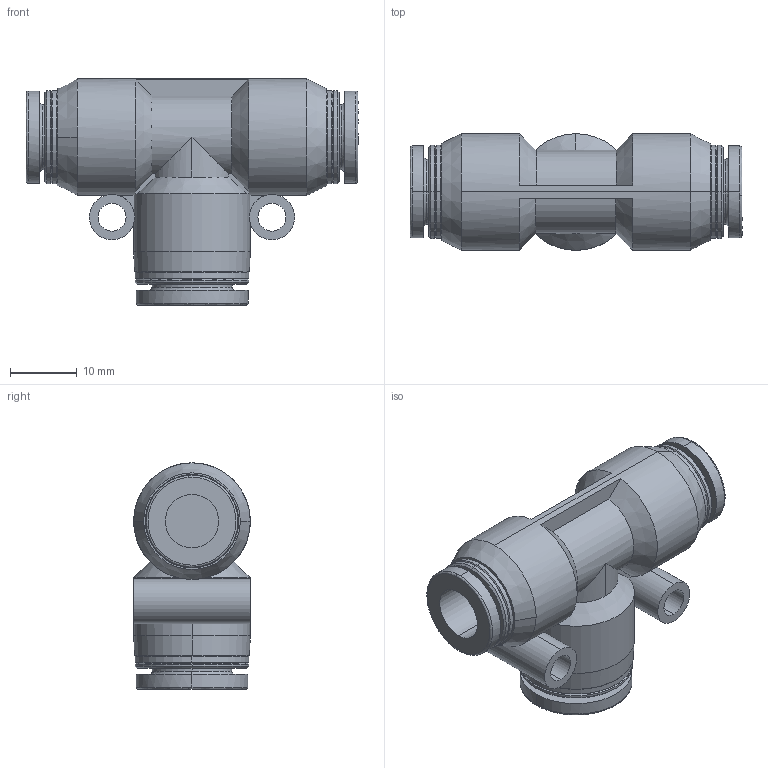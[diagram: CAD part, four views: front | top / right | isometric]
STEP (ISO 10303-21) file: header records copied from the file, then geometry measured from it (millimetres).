
FILE_DESCRIPTION (( 'STEP AP214' ), '1' );
FILE_NAME ('APEG8-10.STEP', '2019-12-05T08:32:04', ( '微软用户' ), ( '微软中国' ), 'SwSTEP 2.0', 'SolidWorks 2016', '' );
FILE_SCHEMA (( 'AUTOMOTIVE_DESIGN' ));
Length unit declared in the file: millimetre
Products named in the file (1): APEG8-10
Bounding box: 49.8 x 17.5 x 33.95 mm (x, y, z)
Volume: 10862.1 mm3; surface area: 7296.9 mm2
Topology: 1 solids, 1 shells, 137 faces, 328 edges, 205 vertices
Faces by surface type: cylinder 47, cone 41, plane 37, bspline 12
Entity records: 4859 total; most frequent: CARTESIAN_POINT 1657, DIRECTION 695, ORIENTED_EDGE 656, EDGE_CURVE 328, AXIS2_PLACEMENT_3D 291, VERTEX_POINT 205, CIRCLE 165, EDGE_LOOP 153
